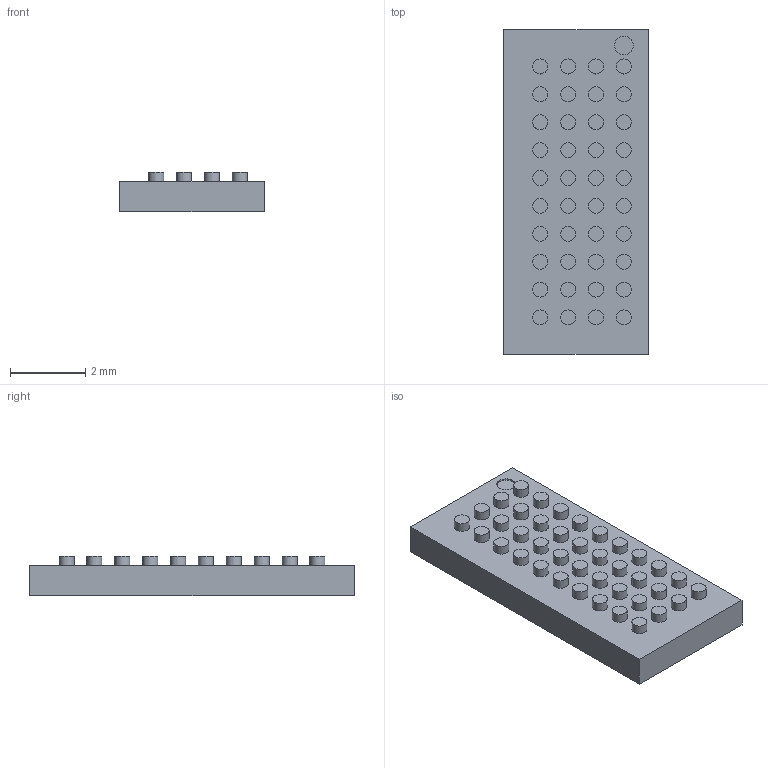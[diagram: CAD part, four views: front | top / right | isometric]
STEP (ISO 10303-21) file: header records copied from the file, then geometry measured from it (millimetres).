
FILE_DESCRIPTION((''),'2;1');
FILE_NAME('C:\Work\Series310\s310-CAD\s310-DMD\2510978-Interposer.stp','2010-01-23T16:34:50',('a0130832'),(''),'Autodesk Inventor 2010','Autodesk Inventor 2010','');
FILE_SCHEMA(('AUTOMOTIVE_DESIGN { 1 0 10303 214 1 1 1 1 }'));
Length unit declared in the file: millimetre
Products named in the file (1): 2510978-Interposer
Bounding box: 3.86 x 8.64 x 1.06 mm (x, y, z)
Volume: 28.2 mm3; surface area: 104.6 mm2
Topology: 1 solids, 1 shells, 730 faces, 1698 edges, 1132 vertices
Faces by surface type: plane 648, cylinder 82
Full cylindrical faces by diameter (mm): 0.02 x40, 0.4 x40, 0.5 x2
Entity records: 20236 total; most frequent: CARTESIAN_POINT 3479, DIRECTION 3242, ORIENTED_EDGE 3232, EDGE_CURVE 1616, VECTOR 1452, LINE 1452, VERTEX_POINT 1132, EDGE_LOOP 974
